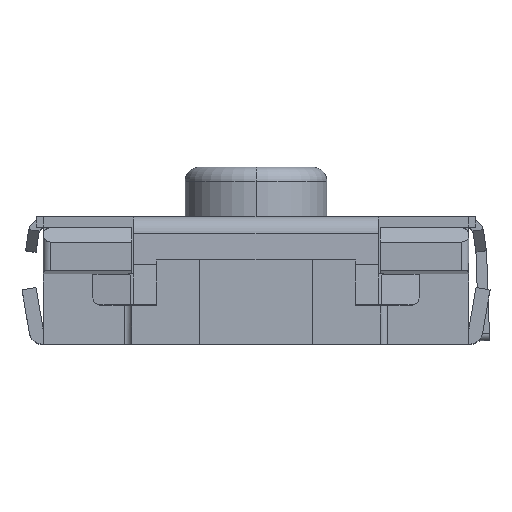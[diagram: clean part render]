
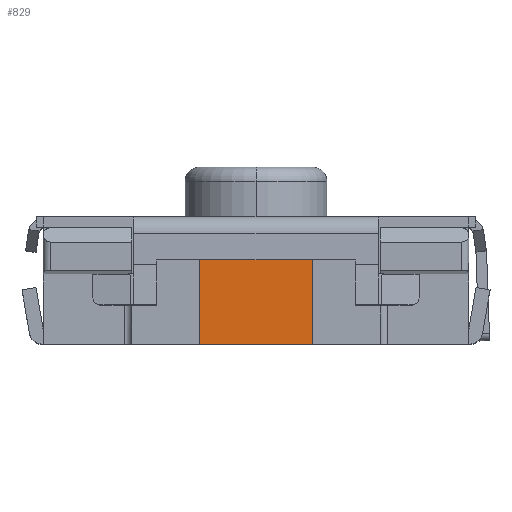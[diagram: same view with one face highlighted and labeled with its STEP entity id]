
A CAD part, top view. The second image highlights one B-rep face of the part: STEP entity #829.
In plain terms, the highlighted planar face has unit normal (0, 0, 1).
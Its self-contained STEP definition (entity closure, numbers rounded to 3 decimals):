
#69 = VECTOR ( 'NONE', #7690, 1000. ) ;
#214 = CARTESIAN_POINT ( 'NONE',  ( 0.8, 1.65, 2.7 ) ) ;
#359 = ORIENTED_EDGE ( 'NONE', *, *, #6835, .F. ) ;
#552 = LINE ( 'NONE', #7065, #7684 ) ;
#829 = ADVANCED_FACE ( 'NONE', ( #5661 ), #6722, .F. ) ;
#1029 = CARTESIAN_POINT ( 'NONE',  ( -0.8, 0., 2.7 ) ) ;
#1375 = CARTESIAN_POINT ( 'NONE',  ( -0.8, 1.65, 2.7 ) ) ;
#1642 = EDGE_CURVE ( 'NONE', #2640, #4499, #552, .T. ) ;
#1684 = ORIENTED_EDGE ( 'NONE', *, *, #8626, .F. ) ;
#2472 = LINE ( 'NONE', #1375, #4074 ) ;
#2639 = CARTESIAN_POINT ( 'NONE',  ( -0.8, 1.65, 2.7 ) ) ;
#2640 = VERTEX_POINT ( 'NONE', #6333 ) ;
#3144 = CARTESIAN_POINT ( 'NONE',  ( -0.8, 0., 2.7 ) ) ;
#3841 = DIRECTION ( 'NONE',  ( 0., 1., 0. ) ) ;
#3965 = DIRECTION ( 'NONE',  ( -1., 0., 0. ) ) ;
#4074 = VECTOR ( 'NONE', #4843, 1000. ) ;
#4499 = VERTEX_POINT ( 'NONE', #1029 ) ;
#4654 = EDGE_LOOP ( 'NONE', ( #5155, #359, #6463, #1684 ) ) ;
#4843 = DIRECTION ( 'NONE',  ( 1., 0., 0. ) ) ;
#4844 = VECTOR ( 'NONE', #3841, 1000. ) ;
#5090 = LINE ( 'NONE', #3144, #4844 ) ;
#5155 = ORIENTED_EDGE ( 'NONE', *, *, #7578, .F. ) ;
#5613 = VERTEX_POINT ( 'NONE', #2639 ) ;
#5661 = FACE_OUTER_BOUND ( 'NONE', #4654, .T. ) ;
#5704 = DIRECTION ( 'NONE',  ( -1., 0., 0. ) ) ;
#5819 = VERTEX_POINT ( 'NONE', #214 ) ;
#6333 = CARTESIAN_POINT ( 'NONE',  ( 0.8, 0., 2.7 ) ) ;
#6463 = ORIENTED_EDGE ( 'NONE', *, *, #1642, .F. ) ;
#6722 = PLANE ( 'NONE',  #7910 ) ;
#6835 = EDGE_CURVE ( 'NONE', #4499, #5613, #5090, .T. ) ;
#6997 = CARTESIAN_POINT ( 'NONE',  ( 0.8, 0., 2.7 ) ) ;
#7065 = CARTESIAN_POINT ( 'NONE',  ( 5., 0., 2.7 ) ) ;
#7203 = LINE ( 'NONE', #6997, #69 ) ;
#7414 = CARTESIAN_POINT ( 'NONE',  ( -0.8, 0., 2.7 ) ) ;
#7578 = EDGE_CURVE ( 'NONE', #5613, #5819, #2472, .T. ) ;
#7684 = VECTOR ( 'NONE', #5704, 1000. ) ;
#7690 = DIRECTION ( 'NONE',  ( 0., -1., 0. ) ) ;
#7910 = AXIS2_PLACEMENT_3D ( 'NONE', #7414, #8103, #3965 ) ;
#8103 = DIRECTION ( 'NONE',  ( 0., 0., -1. ) ) ;
#8626 = EDGE_CURVE ( 'NONE', #5819, #2640, #7203, .T. ) ;
